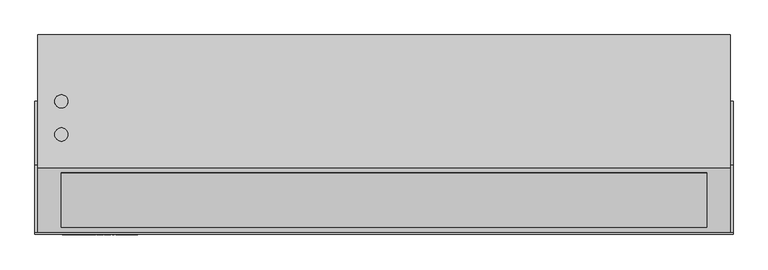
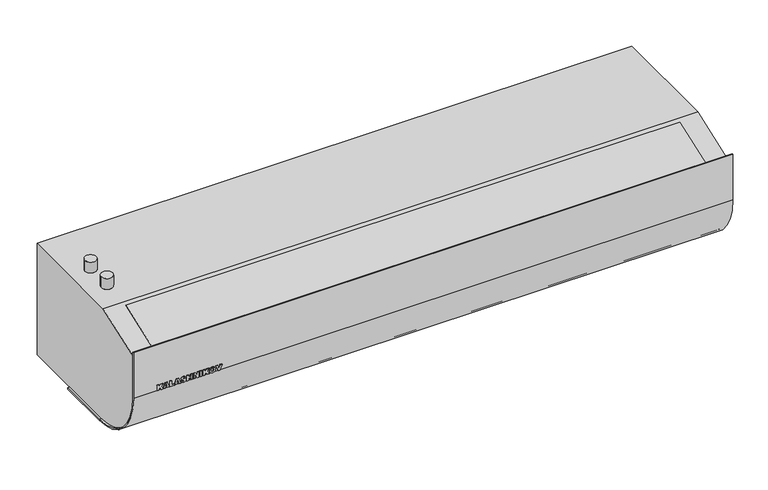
"""IFC4 building model written with IfcOpenShell, lengths in millimetres: proxy geometry, ADSK_Завеса_Водяная : KVC-B10W8-11."""

from ifc_helpers import new_model, si_unit, point, frame, frame_2d, origin, place, context, project, spatial, polyline, circle_curve, trimmed, segment, composite_curve, outline, extrude, source, transform, mapped, element, save
from ifc_brep_helpers import plane_surface, cylinder_surface, advanced_brep


def mechanical_equipment_bb79ffea(model_context):
    return source(origin(), model_context, "Body", "SolidModel", [
        extrude(outline(polyline([(114.5, -486.5196078), (104.5, -486.5196078), (104.5, -483.3823529), (106.2647059, -483.3823529), (108.2745098, -481.6115196), (104.5, -479.7794118), (104.5, -475.9313725), (110.7775735, -479.4056373), (114.5, -476.127451), (114.5, -480.3982843), (110.7224265, -483.3823529), (114.5, -483.3823529), (114.5, -486.5196078)])), frame((0.0, -302.0, 0.0), z_axis=(0.0, 1.0, 0.0), x_axis=(0.0, 0.0, 1.0)), (0.0, 0.0, 1.0), 1.0),
        extrude(outline(polyline([(106.0686275, -468.9338235), (104.5, -468.4803922), (104.5, -465.1470588), (114.5, -468.5202206), (114.5, -472.5582108), (104.5, -475.9313725), (104.5, -472.5980392), (106.0686275, -472.1660539), (106.0686275, -468.9338235)]), holes=[polyline([(108.4215686, -469.5281863), (108.4215686, -471.5165441), (111.9540441, -470.5392157), (108.4215686, -469.5281863)])]), frame((0.0, -302.0, 0.0), z_axis=(0.0, 1.0, 0.0), x_axis=(0.0, 0.0, 1.0)), (0.0, 0.0, 1.0), 1.0),
        extrude(outline(polyline([(114.5, -464.1666667), (104.5, -464.1666667), (104.5, -456.3235294), (106.8529412, -456.3235294), (106.8529412, -461.0294118), (114.5, -461.0294118), (114.5, -464.1666667)])), frame((0.0, -302.0, 0.0), z_axis=(0.0, 1.0, 0.0), x_axis=(0.0, 0.0, 1.0)), (0.0, 0.0, 1.0), 1.0),
        extrude(outline(polyline([(106.0686275, -448.9338235), (104.5, -448.4803922), (104.5, -445.1470588), (114.5, -448.5202206), (114.5, -452.5582108), (104.5, -455.9313725), (104.5, -452.5980392), (106.0686275, -452.1660539), (106.0686275, -448.9338235)]), holes=[polyline([(108.4215686, -449.5281863), (108.4215686, -451.5165441), (111.9540441, -450.5392157), (108.4215686, -449.5281863)])]), frame((0.0, -302.0, 0.0), z_axis=(0.0, 1.0, 0.0), x_axis=(0.0, 0.0, 1.0)), (0.0, 0.0, 1.0), 1.0),
        extrude(outline(polyline([(107.8394608, -444.754902), (105.3026961, -443.6488971), (104.3039216, -440.1378676), (104.7297794, -437.7420343), (105.9813113, -436.2637868), (107.78125, -435.7352941), (109.2870711, -436.1305147), (110.4129902, -437.3958333), (111.3106618, -440.2757353), (112.9313725, -440.4074755), (112.6050858, -439.6338848), (111.5588235, -439.2647059), (111.7395833, -436.127451), (113.9883578, -437.3054534), (114.6960784, -440.1807598), (114.3039216, -442.6011029), (113.2285539, -443.9231005), (111.776348, -444.3627451), (109.8492647, -443.4957108), (108.6237745, -440.6219363), (107.3186275, -438.872549), (106.5818015, -439.1865809), (106.2647059, -440.0796569), (106.8958333, -441.2775735), (108.0294118, -441.6176471), (107.8394608, -444.754902)])), frame((0.0, -302.0, 0.0), z_axis=(0.0, 1.0, 0.0), x_axis=(0.0, 0.0, 1.0)), (0.0, 0.0, 1.0), 1.0),
        extrude(outline(polyline([(114.5, -434.1666667), (104.5, -434.1666667), (104.5, -431.0294118), (108.6176471, -431.0294118), (108.6176471, -427.6960784), (104.5, -427.6960784), (104.5, -424.5588235), (114.5, -424.5588235), (114.5, -427.6960784), (110.9705882, -427.6960784), (110.9705882, -431.0294118), (114.5, -431.0294118), (114.5, -434.1666667)])), frame((0.0, -302.0, 0.0), z_axis=(0.0, 1.0, 0.0), x_axis=(0.0, 0.0, 1.0)), (0.0, 0.0, 1.0), 1.0),
        extrude(outline(polyline([(114.5, -422.5980392), (104.5, -422.5980392), (104.5, -419.6568627), (109.9901961, -419.6568627), (104.5, -415.9313725), (104.5, -412.9901961), (114.5, -412.9901961), (114.5, -415.9313725), (108.9730392, -415.9313725), (114.5, -419.6783088), (114.5, -422.5980392)])), frame((0.0, -302.0, 0.0), z_axis=(0.0, 1.0, 0.0), x_axis=(0.0, 0.0, 1.0)), (0.0, 0.0, 1.0), 1.0),
        extrude(outline(polyline([(-407.6960784, -302.0), (-410.8333333, -302.0), (-410.8333333, -301.0), (-407.6960784, -301.0), (-407.6960784, -302.0)])), frame((0.0, 0.0, 104.5), z_axis=(0.0, 0.0, 1.0), x_axis=(1.0, 0.0, 0.0)), (0.0, 0.0, 1.0), 10.0),
        extrude(outline(polyline([(114.5, -405.5392157), (104.5, -405.5392157), (104.5, -402.4019608), (106.2647059, -402.4019608), (108.2745098, -400.6311275), (104.5, -398.7990196), (104.5, -394.9509804), (110.7775735, -398.4252451), (114.5, -395.1470588), (114.5, -399.4178922), (110.7224265, -402.4019608), (114.5, -402.4019608), (114.5, -405.5392157)])), frame((0.0, -302.0, 0.0), z_axis=(0.0, 1.0, 0.0), x_axis=(0.0, 0.0, 1.0)), (0.0, 0.0, 1.0), 1.0),
        extrude(outline(polyline([(109.4938725, -394.3627451), (106.5603554, -393.671875), (104.846201, -391.8688725), (104.3039216, -389.0594363), (104.9304534, -386.2729779), (106.6859681, -384.5618873), (109.5765931, -383.9705882), (113.3495711, -385.3247549), (114.6960784, -389.185049), (113.3250613, -392.9947917), (109.4938725, -394.3627451)]), holes=[polyline([(109.4938725, -391.2254902), (111.6813725, -390.6678922), (112.3431373, -389.1911765), (111.6920956, -387.6685049), (109.6286765, -387.1078431), (107.3048407, -387.645527), (106.6568627, -389.1636029), (107.3186275, -390.6709559), (109.4938725, -391.2254902)])]), frame((0.0, -302.0, 0.0), z_axis=(0.0, 1.0, 0.0), x_axis=(0.0, 0.0, 1.0)), (0.0, 0.0, 1.0), 1.0),
        extrude(outline(polyline([(114.5, -383.1862745), (104.5, -379.4699755), (104.5, -376.1397059), (114.5, -372.4019608), (114.5, -375.7352941), (107.3033088, -377.7941176), (114.5, -379.8560049), (114.5, -383.1862745)])), frame((0.0, -302.0, 0.0), z_axis=(0.0, 1.0, 0.0), x_axis=(0.0, 0.0, 1.0)), (0.0, 0.0, 1.0), 1.0),
        extrude(outline(polyline([(-20.0555556, 10.0), (-20.0555556, 0.0), (-36.1111111, 10.0), (-36.1111111, 0.0), (-52.1666667, 10.0), (-52.1666667, 0.0), (-68.2222222, 10.0), (-68.2222222, 0.0), (-84.2777778, 10.0), (-84.2777778, 0.0), (-100.2499831, 10.5360909), (-4.0, 10.5360909), (-4.0, 0.0), (-20.0555556, 10.0)])), frame((-487.5, 0.0, 0.0), z_axis=(1.0, 0.0, 0.0), x_axis=(0.0, 1.0, 0.0)), (0.0, 0.0, 1.0), 975.0),
        advanced_brep(
        [(523.5, -200.6666667, 209.0), (523.5, -299.0, 174.0), (523.5, -299.0, 104.5), (523.5, -196.5, 2.0), (523.5, 0.0, 2.0), (523.5, 0.0, 209.0), (-523.5, -200.6666667, 209.0), (-523.5, 0.0, 209.0), (-523.5, 0.0, 2.0), (-523.5, -196.5, 2.0), (-523.5, -299.0, 104.5), (-523.5, -299.0, 174.0), (-477.5, -150.5, 209.0), (-497.5, -150.5, 209.0), (-477.5, -100.3333333, 209.0), (-497.5, -100.3333333, 209.0), (487.5, -4.0, 2.0), (-487.5, -4.0, 2.0), (-487.5, -100.3333333, 2.0), (487.5, -100.3333333, 2.0), (487.5, -4.0, 10.0), (487.5, -100.3333333, 10.0), (-487.5, -100.3333333, 10.0), (-487.5, -4.0, 10.0), (-497.5, -150.5, 229.0), (-477.5, -150.5, 229.0), (-497.5, -100.3333333, 229.0), (-477.5, -100.3333333, 229.0)],
        [
            (0, 1),
            (1, 2),
            (2, 3, circle_curve(frame((523.5, -196.5, 104.5), z_axis=(1.0, 0.0, 0.0), x_axis=(0.0, 1.0, 0.0)), 102.5)),
            (3, 4),
            (4, 5),
            (5, 0),
            (6, 7),
            (7, 8),
            (8, 9),
            (9, 10, circle_curve(frame((-523.5, -196.5, 104.5), z_axis=(-1.0, 0.0, 0.0), x_axis=(0.0, 1.0, 0.0)), 102.5)),
            (10, 11),
            (11, 6),
            (1, 11),
            (10, 2),
            (4, 8),
            (7, 5),
            (6, 0),
            (12, 13, circle_curve(frame((-487.5, -150.5, 209.0), z_axis=(0.0, 0.0, -1.0), x_axis=(1.0, 0.0, 0.0)), 10.0)),
            (13, 12, circle_curve(frame((-487.5, -150.5, 209.0), z_axis=(0.0, 0.0, -1.0), x_axis=(1.0, 0.0, 0.0)), 10.0)),
            (14, 15, circle_curve(frame((-487.5, -100.3333333, 209.0), z_axis=(0.0, 0.0, -1.0), x_axis=(1.0, 0.0, 0.0)), 10.0)),
            (15, 14, circle_curve(frame((-487.5, -100.3333333, 209.0), z_axis=(0.0, 0.0, -1.0), x_axis=(1.0, 0.0, 0.0)), 10.0)),
            (9, 3),
            (16, 17),
            (17, 18),
            (18, 19),
            (19, 16),
            (20, 21),
            (21, 22),
            (22, 23),
            (23, 20),
            (23, 17),
            (16, 20),
            (22, 18),
            (21, 19),
            (24, 25, circle_curve(frame((-487.5, -150.5, 229.0), z_axis=(0.0, 0.0, 1.0), x_axis=(1.0, 0.0, 0.0)), 10.0)),
            (25, 24, circle_curve(frame((-487.5, -150.5, 229.0), z_axis=(0.0, 0.0, 1.0), x_axis=(1.0, 0.0, 0.0)), 10.0)),
            (26, 27, circle_curve(frame((-487.5, -100.3333333, 229.0), z_axis=(0.0, 0.0, 1.0), x_axis=(1.0, 0.0, 0.0)), 10.0)),
            (27, 26, circle_curve(frame((-487.5, -100.3333333, 229.0), z_axis=(0.0, 0.0, 1.0), x_axis=(1.0, 0.0, 0.0)), 10.0)),
            (24, 13),
            (12, 25),
            (26, 15),
            (14, 27),
        ],
        [
            plane_surface(frame((523.5, -200.6666667, 209.0), z_axis=(1.0, 0.0, 0.0), x_axis=(0.0, -0.942102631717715, -0.3353246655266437))),
            plane_surface(frame((-523.5, -200.6666667, 209.0), z_axis=(-1.0, 0.0, 0.0), x_axis=(0.0, 0.942102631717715, 0.3353246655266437))),
            plane_surface(frame((523.5, -299.0, 174.0), z_axis=(0.0, -1.0, 0.0), x_axis=(-1.0, 0.0, 0.0))),
            plane_surface(frame((523.5, 0.0, 2.0), z_axis=(0.0, 1.0, 0.0), x_axis=(-1.0, 0.0, 0.0))),
            plane_surface(frame((523.5, 0.0, 209.0), z_axis=(0.0, 0.0, 1.0), x_axis=(-1.0, 0.0, 0.0))),
            cylinder_surface(frame((-523.5, -196.5, 104.5), z_axis=(1.0, 0.0, 0.0), x_axis=(0.0, 1.0, 0.0)), 102.5),
            plane_surface(frame((523.5, -196.5, 2.0), z_axis=(0.0, 0.0, -1.0), x_axis=(-1.0, 0.0, 0.0))),
            plane_surface(frame((523.5, -200.6666667, 209.0), z_axis=(0.0, -0.3353246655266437, 0.942102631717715), x_axis=(-1.0, 0.0, 0.0))),
            plane_surface(frame((-487.5, -4.0, 10.0), z_axis=(0.0, 0.0, -1.0), x_axis=(-1.0, 0.0, 0.0))),
            plane_surface(frame((487.5, -4.0, 10.0), z_axis=(0.0, -1.0, 0.0), x_axis=(0.0, 0.0, -1.0))),
            plane_surface(frame((-487.5, -4.0, 10.0), z_axis=(1.0, 0.0, 0.0), x_axis=(0.0, 0.0, -1.0))),
            plane_surface(frame((-487.5, -100.3333333, 10.0), z_axis=(0.0, 1.0, 0.0), x_axis=(0.0, 0.0, -1.0))),
            plane_surface(frame((487.5, -100.3333333, 10.0), z_axis=(-1.0, 0.0, 0.0), x_axis=(0.0, 0.0, -1.0))),
            plane_surface(frame((-477.5, -150.5, 229.0), z_axis=(0.0, 0.0, 1.0), x_axis=(0.0, 1.0, 0.0))),
            cylinder_surface(frame((-487.5, -150.5, 209.0), z_axis=(0.0, 0.0, 1.0), x_axis=(1.0, 0.0, 0.0)), 10.0),
            cylinder_surface(frame((-487.5, -100.3333333, 0.0), z_axis=(0.0, 0.0, 1.0), x_axis=(1.0, 0.0, 0.0)), 10.0),
        ],
        [
            (0, [[1, 2, 3, 4, 5, 6]]),
            (1, [[7, 8, 9, 10, 11, 12]]),
            (2, [[-2, 13, -11, 14]]),
            (3, [[-5, 15, -8, 16]]),
            (4, [[-6, -16, -7, 17], [18, 19], [20, 21]]),
            (5, [[-3, -14, -10, 22]]),
            (6, [[-4, -22, -9, -15], [23, 24, 25, 26]]),
            (7, [[-1, -17, -12, -13]]),
            (8, [[27, 28, 29, 30]]),
            (9, [[-30, 31, -23, 32]]),
            (10, [[-29, 33, -24, -31]]),
            (11, [[-28, 34, -25, -33]]),
            (12, [[-27, -32, -26, -34]]),
            (13, [[35, 36]]),
            (13, [[37, 38]]),
            (14, [[-35, 39, -18, 40]]),
            (14, [[-36, -40, -19, -39]]),
            (15, [[-37, 41, -20, 42]]),
            (15, [[-38, -42, -21, -41]]),
        ],
    ),
        extrude(outline(polyline([(0.0, -87.5907467), (0.0, 0.0), (975.0, 0.0), (975.0, -87.5907467), (0.0, -87.5907467)])), frame((487.5, -290.390912, 176.3755808), z_axis=(0.0, -0.3353246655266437, 0.942102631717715), x_axis=(-1.0, 0.0, 0.0)), (0.0, 0.0, 1.0), 1.2975972),
        extrude(outline(composite_curve([segment(polyline([(-301.0, 189.0), (-299.0, 189.0), (-299.0, 104.5)]), True, "CONTINUOUS"), segment(trimmed(circle_curve(frame_2d((-196.5, 104.5)), 102.5), [point((-299.0, 104.5))], [point((-196.5, 2.0))], True, "CARTESIAN"), True, "CONTINUOUS"), segment(polyline([(-196.5, 2.0), (-100.3333333, 2.0), (-100.3333333, 0.0), (-196.5, 0.0)]), True, "CONTINUOUS"), segment(trimmed(circle_curve(frame_2d((-196.5, 104.5)), 104.5), [point((-196.5, 0.0))], [point((-301.0, 104.5))], False, "CARTESIAN"), True, "CONTINUOUS"), segment(polyline([(-301.0, 104.5), (-301.0, 189.0)]), True, "CONTINUOUS")], self_intersect=False)), frame((-527.5, 0.0, 0.0), z_axis=(1.0, 0.0, 0.0), x_axis=(0.0, 1.0, 0.0)), (0.0, 0.0, 1.0), 1055.0),
    ])


if __name__ == "__main__":
    model = new_model("IFC4")
    model_context = context("Model", 3, world=origin())
    ifc_project = project(units=[si_unit("LENGTHUNIT", "METRE", prefix="MILLI")], contexts=[model_context])
    site = spatial("IfcSite", under=ifc_project)
    building = spatial("IfcBuilding", under=site)
    placement = place(None, origin())
    mechanical_equipment_shape = mechanical_equipment_bb79ffea(model_context)
    element("IfcBuildingElementProxy", 1, Name="ADSK_Завеса_Водяная : KVC-B10W8-11", ObjectType="ADSK_Завеса_Водяная : KVC-B10W8-11", at=placement, inside=building, context=model_context, shape_type="MappedRepresentation", body=[
        mapped(mechanical_equipment_shape, transform((0.0, 0.0, 0.0), x_axis=(1.0, 0.0, 0.0), y_axis=(0.0, 1.0, 0.0), z_axis=(0.0, 0.0, 1.0))),
    ])
    save(model, "model.ifc")
